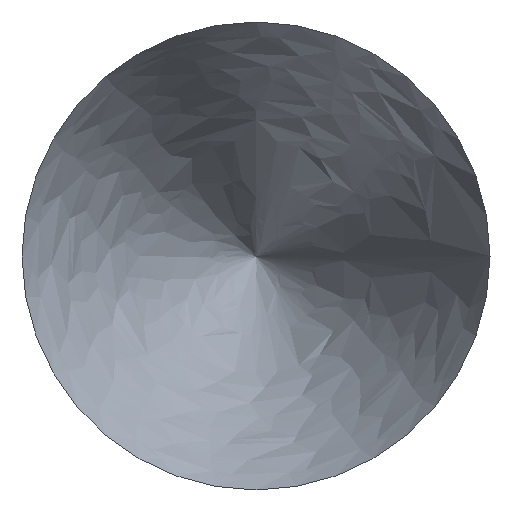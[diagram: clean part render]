
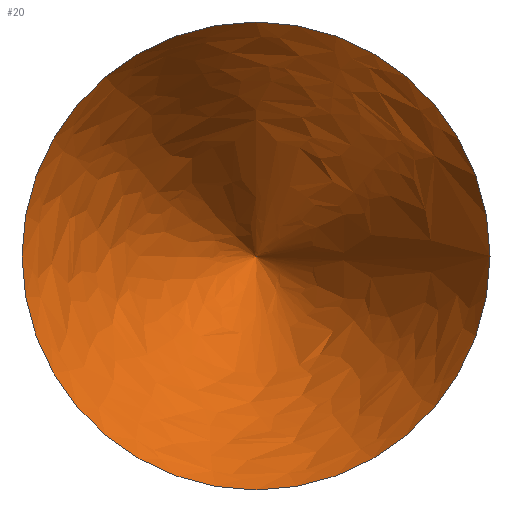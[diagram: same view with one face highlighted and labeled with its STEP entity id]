
A CAD part, top view. The second image highlights one B-rep face of the part: STEP entity #20.
In plain terms, the highlighted free-form (B-spline) face has degree [1, 2] with [2, 9] control points.
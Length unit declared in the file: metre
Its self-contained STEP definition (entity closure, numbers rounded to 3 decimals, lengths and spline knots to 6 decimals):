
#1=CARTESIAN_POINT('',(0.,0.,-0.01));
#2=CARTESIAN_POINT('',(0.005,0.,0.));
#3=CARTESIAN_POINT('',(0.005,0.005,0.));
#4=CARTESIAN_POINT('',(0.,0.005,0.));
#5=CARTESIAN_POINT('',(-0.005,0.005,0.));
#40=CARTESIAN_POINT('',(-0.005,0.,0.));
#41=CARTESIAN_POINT('',(-0.005,-0.005,0.));
#42=CARTESIAN_POINT('',(0.,-0.005,0.));
#43=CARTESIAN_POINT('',(0.005,-0.005,0.));
#6=VERTEX_POINT('',#1);
#7=VERTEX_POINT('',#2);
#8=DIRECTION('',(0.,0.,1.));
#9=DIRECTION('',(1.,0.,0.));
#10=AXIS2_PLACEMENT_3D('',#11,#8,#9);
#11=CARTESIAN_POINT('',(0.,0.,0.));
#12=CIRCLE('',#10,0.005);
#13=EDGE_CURVE('',#7,#7,#12,.T.);
#14=ORIENTED_EDGE('',*,*,#13,.T.);
#15=EDGE_LOOP('',(#14));
#16=VERTEX_LOOP('',#6);
#17=FACE_BOUND('',#16,.T.);
#18=FACE_BOUND('',#15,.T.);
#19=(BOUNDED_SURFACE()B_SPLINE_SURFACE(1,2,
((#1,#1,#1,#1,#1,#1,#1,#1,#1),(#2,#3,#4,#5,#40,#41,#42,#43,#2)),
.UNSPECIFIED.,.F.,.T.,.F.)
B_SPLINE_SURFACE_WITH_KNOTS((2,2),(3,2,2,2,3),(0.,1.),
(-3.141593,-1.570796,0.,1.570796,
3.141593),.UNSPECIFIED.)
GEOMETRIC_REPRESENTATION_ITEM()
RATIONAL_B_SPLINE_SURFACE(((1.,0.707,1.,0.707,1.,
0.707,1.,0.707,1.),(1.,0.707,1.,
0.707,1.,0.707,1.,0.707,1.)))
REPRESENTATION_ITEM('')SURFACE());
#20=ADVANCED_FACE('',(#17,#18),#19,.T.);
